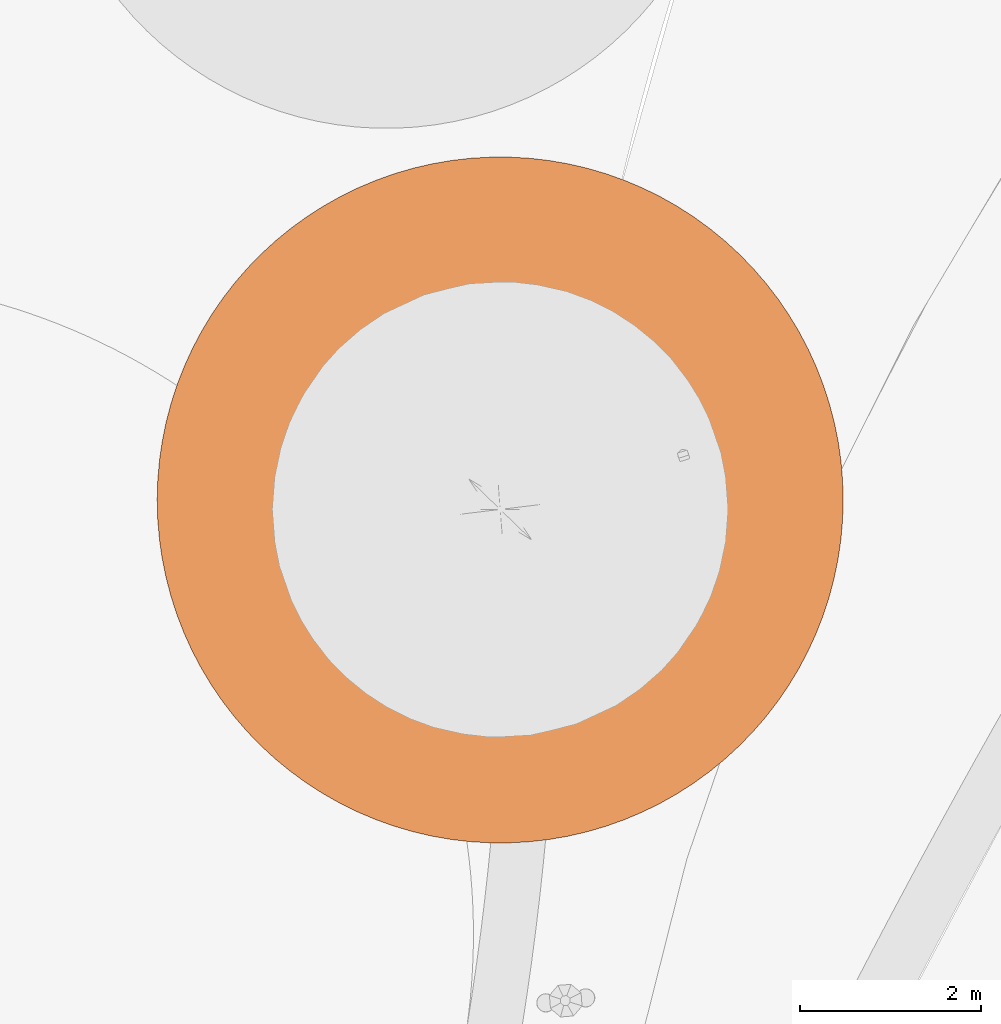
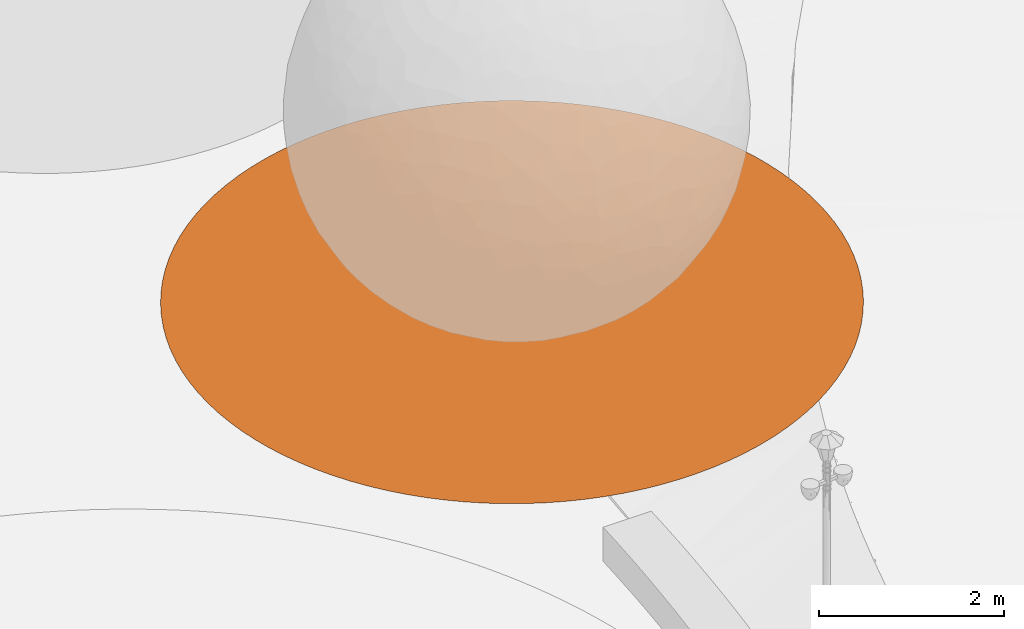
# One storey, part 72 of 75: 1 proxy.
"""IFC2X3 building model written with IfcOpenShell, lengths in metres."""

from ifc_helpers import new_model, entity, si_unit, converted_unit, derived_unit, direction, frame, origin, place, context, subcontext, project, spatial, face_set, surface_model, source, transform, mapped, material, type_object, type_shapes, element, save


model = new_model("IFC2X3")

# Units and contexts
model_context = context("Model", 3, precision=1e-05, world=origin(), true_north=direction((6.123031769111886e-17, 1.0)))
body_context = subcontext(model_context, "Body", "Model", "MODEL_VIEW")
ifc_project = project(units=[si_unit("LENGTHUNIT", "METRE"), si_unit("AREAUNIT", "SQUARE_METRE"), si_unit("VOLUMEUNIT", "CUBIC_METRE"), converted_unit("PLANEANGLEUNIT", "DEGREE", entity("IfcRatioMeasure", 0.017453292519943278), si_unit("PLANEANGLEUNIT", "RADIAN"), dimensions=[0, 0, 0, 0, 0, 0, 0]), si_unit("MASSUNIT", "GRAM", prefix="KILO"), derived_unit("MASSDENSITYUNIT", [(si_unit("MASSUNIT", "GRAM", prefix="KILO"), 1), (si_unit("LENGTHUNIT", "METRE"), -3)]), derived_unit("IONCONCENTRATIONUNIT", [(si_unit("MASSUNIT", "GRAM", prefix="KILO"), 1), (si_unit("LENGTHUNIT", "METRE"), -3)]), derived_unit("MOMENTOFINERTIAUNIT", [(si_unit("LENGTHUNIT", "METRE"), 4)]), si_unit("TIMEUNIT", "SECOND"), si_unit("FREQUENCYUNIT", "HERTZ"), si_unit("THERMODYNAMICTEMPERATUREUNIT", "DEGREE_CELSIUS"), derived_unit("THERMALTRANSMITTANCEUNIT", [(si_unit("MASSUNIT", "GRAM", prefix="KILO"), 1), (si_unit("THERMODYNAMICTEMPERATUREUNIT", "KELVIN"), -1), (si_unit("TIMEUNIT", "SECOND"), -3)]), derived_unit("THERMALCONDUCTANCEUNIT", [(si_unit("MASSUNIT", "GRAM", prefix="KILO"), 1), (si_unit("THERMODYNAMICTEMPERATUREUNIT", "KELVIN"), -1), (si_unit("TIMEUNIT", "SECOND"), -3), (si_unit("LENGTHUNIT", "METRE"), 1)]), derived_unit("VOLUMETRICFLOWRATEUNIT", [(si_unit("LENGTHUNIT", "METRE"), 3), (si_unit("TIMEUNIT", "SECOND"), -1)]), derived_unit("MASSFLOWRATEUNIT", [(si_unit("MASSUNIT", "GRAM", prefix="KILO"), 1), (si_unit("TIMEUNIT", "SECOND"), -1)]), derived_unit("ROTATIONALFREQUENCYUNIT", [(si_unit("TIMEUNIT", "SECOND"), -1)]), si_unit("ELECTRICCURRENTUNIT", "AMPERE"), si_unit("ELECTRICVOLTAGEUNIT", "VOLT"), si_unit("POWERUNIT", "WATT"), si_unit("FORCEUNIT", "NEWTON", prefix="KILO"), si_unit("ILLUMINANCEUNIT", "LUX"), si_unit("LUMINOUSFLUXUNIT", "LUMEN"), si_unit("LUMINOUSINTENSITYUNIT", "CANDELA"), derived_unit("USERDEFINED", [(si_unit("MASSUNIT", "GRAM", prefix="KILO"), -1), (si_unit("LENGTHUNIT", "METRE"), -2), (si_unit("TIMEUNIT", "SECOND"), 3), (si_unit("LUMINOUSFLUXUNIT", "LUMEN"), 1)]), derived_unit("USERDEFINED", [(si_unit("MASSUNIT", "GRAM", prefix="KILO"), 1), (si_unit("TIMEUNIT", "SECOND"), -3), (si_unit("LENGTHUNIT", "METRE"), 3), (si_unit("ELECTRICCURRENTUNIT", "AMPERE"), -2)]), derived_unit("SOUNDPOWERUNIT", [(si_unit("MASSUNIT", "GRAM", prefix="KILO"), 1), (si_unit("TIMEUNIT", "SECOND"), -3), (si_unit("LENGTHUNIT", "METRE"), 2)]), derived_unit("SOUNDPRESSUREUNIT", [(si_unit("MASSUNIT", "GRAM", prefix="KILO"), 1), (si_unit("LENGTHUNIT", "METRE"), -1), (si_unit("TIMEUNIT", "SECOND"), -2)]), derived_unit("LINEARVELOCITYUNIT", [(si_unit("LENGTHUNIT", "METRE"), 1), (si_unit("TIMEUNIT", "SECOND"), -1)]), si_unit("PRESSUREUNIT", "PASCAL"), derived_unit("USERDEFINED", [(si_unit("MASSUNIT", "GRAM", prefix="KILO"), 1), (si_unit("LENGTHUNIT", "METRE"), -2), (si_unit("TIMEUNIT", "SECOND"), -2)]), derived_unit("LINEARFORCEUNIT", [(si_unit("MASSUNIT", "GRAM", prefix="KILO"), 1), (si_unit("TIMEUNIT", "SECOND"), -2)]), derived_unit("PLANARFORCEUNIT", [(si_unit("MASSUNIT", "GRAM", prefix="KILO"), 1), (si_unit("LENGTHUNIT", "METRE"), -1), (si_unit("TIMEUNIT", "SECOND"), -2)]), derived_unit("SPECIFICHEATCAPACITYUNIT", [(si_unit("THERMODYNAMICTEMPERATUREUNIT", "KELVIN"), -1), (si_unit("LENGTHUNIT", "METRE"), 2), (si_unit("TIMEUNIT", "SECOND"), -2)]), derived_unit("HEATINGVALUEUNIT", [(si_unit("LENGTHUNIT", "METRE"), 2), (si_unit("TIMEUNIT", "SECOND"), -2)]), derived_unit("VAPORPERMEABILITYUNIT", [(si_unit("LENGTHUNIT", "METRE"), -1), (si_unit("TIMEUNIT", "SECOND"), 1)]), derived_unit("DYNAMICVISCOSITYUNIT", [(si_unit("MASSUNIT", "GRAM", prefix="KILO"), 1), (si_unit("TIMEUNIT", "SECOND"), -1), (si_unit("LENGTHUNIT", "METRE"), -1)]), derived_unit("THERMALEXPANSIONCOEFFICIENTUNIT", [(si_unit("THERMODYNAMICTEMPERATUREUNIT", "KELVIN"), -1)]), derived_unit("MODULUSOFELASTICITYUNIT", [(si_unit("MASSUNIT", "GRAM", prefix="KILO"), 1), (si_unit("LENGTHUNIT", "METRE"), -1), (si_unit("TIMEUNIT", "SECOND"), -2)]), derived_unit("ISOTHERMALMOISTURECAPACITYUNIT", [(si_unit("LENGTHUNIT", "METRE"), 3), (si_unit("MASSUNIT", "GRAM", prefix="KILO"), -1)]), derived_unit("MOISTUREDIFFUSIVITYUNIT", [(si_unit("TIMEUNIT", "SECOND"), -1), (si_unit("LENGTHUNIT", "METRE"), 2)])], contexts=[model_context])

# Site, building, storey
site_placement = place(None, origin())
site = spatial("IfcSite", under=ifc_project, at=site_placement, Name="Default", CompositionType="ELEMENT")
building_placement = place(site_placement, origin())
building = spatial("IfcBuilding", under=site, at=building_placement, Name="Projeto", CompositionType="ELEMENT")
storey_placement = place(building_placement, origin())
storey = spatial("IfcBuildingStorey", under=building, at=storey_placement, Name="Nível 1", CompositionType="ELEMENT", Elevation=0.0)

# Proxy
ifc_material = material(Name="<Unnamed>")
building_element_proxy_type = type_object("IfcBuildingElementProxyType", Name="Arvore simplificada:Arvore simplificada", PredefinedType="NOTDEFINED", material=ifc_material)
shared_shape = source(origin(), body_context, "Body", "SurfaceModel", [
    surface_model("IfcFaceBasedSurfaceModel", [(-3.9544974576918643, -0.18317979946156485, 0.0), (-3.9483138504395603, -0.3996342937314, 0.0), (-3.929783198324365, -0.6153827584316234, 0.0), (-3.8989659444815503, -0.8297214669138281, 0.0), (-3.855962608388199, -1.0419512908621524, 0.0), (-3.8009134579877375, -1.2513799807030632, 0.0), (-3.733998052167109, -1.4573244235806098, 0.0), (-3.655434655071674, -1.6591128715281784, 0.0), (-3.5654795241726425, -1.8560871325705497, 0.0), (-3.4644260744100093, -2.0476047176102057, 0.0), (-3.3526039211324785, -2.2330409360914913, 0.0), (-3.2303778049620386, -2.411790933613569, 0.0), (-3.098146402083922, -2.583271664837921, 0.0), (-2.9563410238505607, -2.7469237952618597, 0.0), (-2.8054242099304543, -2.9022135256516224, 0.0), (-2.6458882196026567, -3.048634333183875, 0.0), (-2.4782534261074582, -3.1857086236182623, 0.0), (-2.3030666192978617, -3.3129892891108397, 0.0), (-2.12089922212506, -3.430061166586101, 0.0), (-1.93234542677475, -3.5365423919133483, 0.0), (-1.7380202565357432, -3.632085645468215, 0.0), (-1.5385575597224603, -3.7163792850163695, 0.0), (-1.3346079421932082, -3.789148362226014, 0.0), (-1.1268366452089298, -3.8501555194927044, 0.0), (-0.9159213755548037, -3.8992017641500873, 0.0), (-0.7025500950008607, -3.9361271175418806, 0.0), (-0.48741877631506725, -3.9608111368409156, 0.0), (-0.2712291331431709, -3.9731733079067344, 0.0), (-0.054686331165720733, -3.9731733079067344, 0.0), (0.16150331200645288, -3.9608111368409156, 0.0), (0.3766346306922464, -3.9361271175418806, 0.0), (0.5900059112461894, -3.8992017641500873, 0.0), (0.8009211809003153, -3.8501555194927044, 0.0), (1.0086924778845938, -3.789148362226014, 0.0), (1.212642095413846, -3.7163792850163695, 0.0), (1.4121047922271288, -3.632085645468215, 0.0), (1.6064299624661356, -3.5365423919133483, 0.0), (1.7949837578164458, -3.430061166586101, 0.0), (1.9771511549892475, -3.3129892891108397, 0.0), (2.152337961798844, -3.1857086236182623, 0.0), (2.3199727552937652, -3.048634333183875, 0.0), (2.479508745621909, -2.9022135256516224, 0.0), (2.6304255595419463, -2.7469237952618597, 0.0), (2.7722309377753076, -2.583271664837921, 0.0), (2.9044623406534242, -2.411790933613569, 0.0), (3.026688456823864, -2.2330409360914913, 0.0), (3.138510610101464, -2.0476047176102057, 0.0), (3.239564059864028, -1.8560871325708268, 0.0), (3.3295191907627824, -1.6591128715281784, 0.0), (3.4080825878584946, -1.4573244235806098, 0.0), (3.474997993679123, -1.2513799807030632, 0.0), (3.5300471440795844, -1.0419512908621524, 0.0), (3.573050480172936, -0.8297214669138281, 0.0), (3.6038677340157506, -0.6153827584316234, 0.0), (3.622398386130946, -0.3996342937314, 0.0), (3.62858199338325, -0.18317979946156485, 0.0), (3.622398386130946, 0.03327469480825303, 0.0), (3.6038677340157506, 0.24902315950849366, 0.0), (3.573050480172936, 0.4633618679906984, 0.0), (3.5300471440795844, 0.6755916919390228, 0.0), (3.474997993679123, 0.8850203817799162, 0.0), (3.4080825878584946, 1.0909648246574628, 0.0), (3.3295191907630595, 1.2927532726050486, 0.0), (3.239564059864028, 1.4897275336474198, 0.0), (3.138510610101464, 1.6812451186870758, 0.0), (3.026688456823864, 1.8666813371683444, 0.0), (2.9044623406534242, 2.0454313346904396, 0.0), (2.7722309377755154, 2.2169120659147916, 0.0), (2.6304255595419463, 2.38056419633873, 0.0), (2.479508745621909, 2.535853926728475, 0.0), (2.3199727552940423, 2.682274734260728, 0.0), (2.152337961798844, 2.819349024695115, 0.0), (1.9771511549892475, 2.946629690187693, 0.0), (1.7949837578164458, 3.063701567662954, 0.0), (1.6064299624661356, 3.1701827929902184, 0.0), (1.4121047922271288, 3.265726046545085, 0.0), (1.212642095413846, 3.3500196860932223, 0.0), (1.0086924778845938, 3.422788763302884, 0.0), (0.8009211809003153, 3.4837959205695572, 0.0), (0.5900059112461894, 3.5328421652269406, 0.0), (0.3766346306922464, 3.5697675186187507, 0.0), (0.16150331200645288, 3.5944515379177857, 0.0), (-0.05468633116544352, 3.606813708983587, 0.0), (-0.27122913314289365, 3.606813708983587, 0.0), (-0.48741877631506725, 3.5944515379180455, 0.0), (-0.7025500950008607, 3.5697675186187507, 0.0), (-0.9159213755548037, 3.5328421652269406, 0.0), (-1.1268366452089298, 3.4837959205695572, 0.0), (-1.3346079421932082, 3.422788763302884, 0.0), (-1.5385575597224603, 3.3500196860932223, 0.0), (-1.7380202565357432, 3.265726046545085, 0.0), (-1.93234542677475, 3.1701827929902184, 0.0), (-2.12089922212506, 3.063701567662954, 0.0), (-2.3030666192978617, 2.946629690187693, 0.0), (-2.4782534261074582, 2.819349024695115, 0.0), (-2.6458882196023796, 2.682274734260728, 0.0), (-2.8054242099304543, 2.535853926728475, 0.0), (-2.9563410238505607, 2.38056419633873, 0.0), (-3.098146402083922, 2.2169120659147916, 0.0), (-3.2303778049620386, 2.0454313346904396, 0.0), (-3.3526039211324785, 1.8666813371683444, 0.0), (-3.4644260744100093, 1.6812451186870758, 0.0), (-3.5654795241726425, 1.4897275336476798, 0.0), (-3.6554346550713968, 1.2927532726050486, 0.0), (-3.733998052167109, 1.0909648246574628, 0.0), (-3.8009134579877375, 0.8850203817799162, 0.0), (-3.855962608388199, 0.6755916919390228, 0.0), (-3.8989659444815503, 0.4633618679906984, 0.0), (-3.929783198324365, 0.24902315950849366, 0.0), (-3.9483138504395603, 0.03327469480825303, 0.0)], [face_set([[[0, 1, 2, 3, 4, 5, 6, 7, 8, 9, 10, 11, 12, 13, 14, 15, 16, 17, 18, 19, 20, 21, 22, 23, 24, 25, 26, 27, 28, 29, 30, 31, 32, 33, 34, 35, 36, 37, 38, 39, 40, 41, 42, 43, 44, 45, 46, 47, 48, 49, 50, 51, 52, 53, 54, 55, 56, 57, 58, 59, 60, 61, 62, 63, 64, 65, 66, 67, 68, 69, 70, 71, 72, 73, 74, 75, 76, 77, 78, 79, 80, 81, 82, 83, 84, 85, 86, 87, 88, 89, 90, 91, 92, 93, 94, 95, 96, 97, 98, 99, 100, 101, 102, 103, 104, 105, 106, 107, 108, 109]]])]),
])
type_shapes(building_element_proxy_type, [shared_shape])
proxy_placement = place(storey_placement, frame((17.95080589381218, 9.925141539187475, 0.0), z_axis=(0.0, 0.0, 1.0), x_axis=(0.9422539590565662, 0.3348992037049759, 0.0)))
element("IfcBuildingElementProxy", 1, at=proxy_placement, inside=storey, type_object=building_element_proxy_type, material=ifc_material, Name="Arvore simplificada:Arvore simplificada", ObjectType="Arvore simplificada:Arvore simplificada", context=body_context, shape_type="MappedRepresentation", body=[
    mapped(shared_shape, transform((0.0, 0.0, 0.0), scale=1.0)),
])

save(model, "model.ifc")
